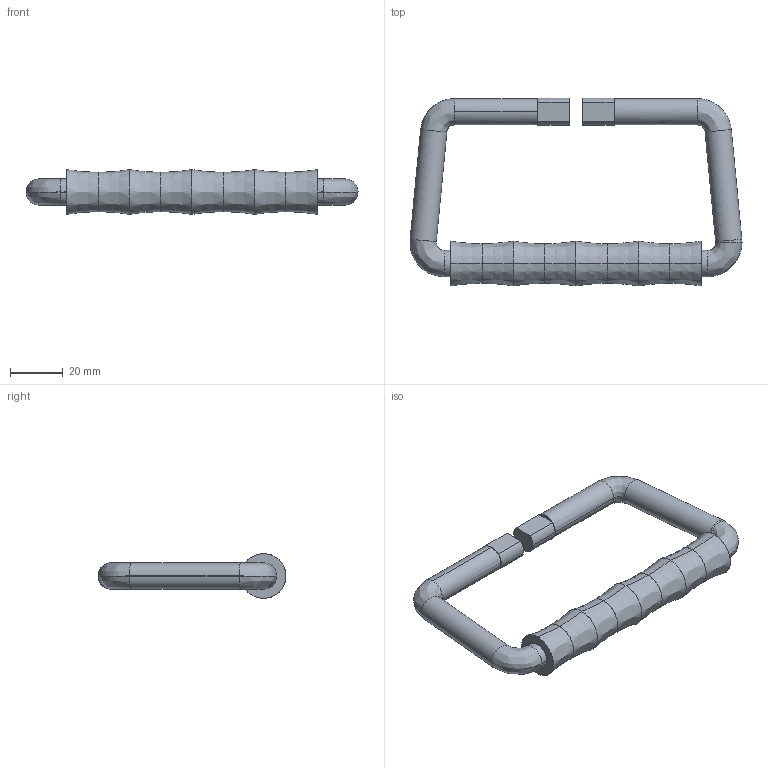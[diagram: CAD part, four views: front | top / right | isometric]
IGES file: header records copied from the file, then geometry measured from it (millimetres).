
Start section: SolidWorks IGES FILE using analytic representation for surfaces
Global section: file name: C:\Documents and Settings\lecoutey\Bureau\PR 302\302.030.00.IGS; native system: SolidWorks 2004 by SolidWorks Corporation; preprocessor: Version 5.3; author: lecoutey; date: 050408.142235; units: millimetre
Bounding box: 125.97 x 71.3 x 17 mm (x, y, z)
Surface area: 12262.4 mm2 (no closed solid volume)
Topology: 0 solids, 0 shells, 58 faces, 541 edges, 541 vertices
Faces by surface type: bspline 40, revolution 18
